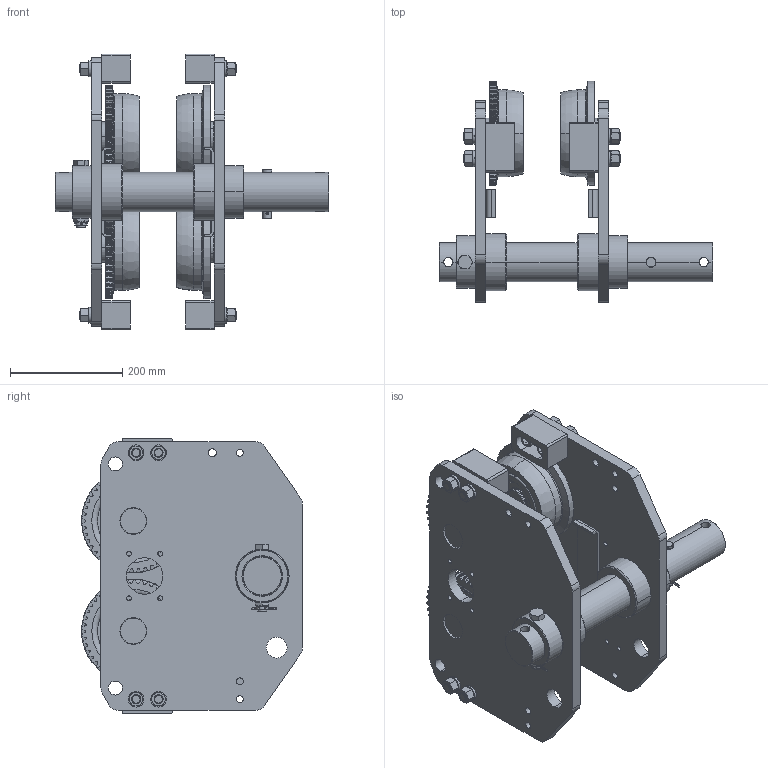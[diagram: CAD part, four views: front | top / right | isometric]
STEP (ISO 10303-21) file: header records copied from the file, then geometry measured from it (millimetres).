
FILE_DESCRIPTION (( 'STEP AP214' ), '1' );
FILE_NAME ('PTS080.STEP', '2026-08-17T14:35:37', ( '' ), ( '' ), 'SwSTEP 2.0', 'SolidWorks 2026', '' );
FILE_SCHEMA (( 'AUTOMOTIVE_DESIGN' ));
Length unit declared in the file: inch
Products named in the file (26): T5AB0759141; T3GA1009102; J1NL00910160_JIS B 1170 Hexagon castle nut Class 2 High type Medium M16 --N; T3GA1009111; T3GA1009112; 9047140_9047140; T3GA1009118; J1SR000-00090_J1SR000-00090; M6SE100S9113; PTS080; M6SE100S9114; 90912156_90912156; T3GA1005111; T3G1102075; MS104075; MS164075; T3GB1005112; 6308Z Bearing; T3GA1009103; T3G1101075; 9009436_9009436; 9012715_9012715; 9093439_9093439; MS115075_MS115075; T3GA1009101; MS161100
Assembly tree (64 placements, depth 3):
  PTS080
    T3GB1005112
      T3GA1009112
      T3GA1009118
      M6SE100S9114
      T3GA1009103  x2
    T3GA1005111
      T3GA1009111
      M6SE100S9113
      T3GA1009118
      T3GA1009103  x2
    T3G1102075  x2
      T3GA1009102
      6308Z Bearing
      J1SR000-00090_J1SR000-00090
    MS104075  x4
    9047140_9047140  x4
    T5AB0759141  x4
    90912156_90912156  x8
    9012715_9012715  x8
    9093439_9093439  x8
    MS115075_MS115075
    MS161100
    MS164075
    9009436_9009436  x2
    T3G1101075  x2
      T3GA1009101
      6308Z Bearing
      J1SR000-00090_J1SR000-00090
    J1NL00910160_JIS B 1170 Hexagon castle nut Class 2 High type Medium M16 --N
Bounding box: 488 x 394.6 x 492 mm (x, y, z)
Volume: 12533673.8 mm3; surface area: 1859342.2 mm2
Topology: 60 solids, 76 shells, 3832 faces, 10102 edges, 6582 vertices
Faces by surface type: plane 1632, cylinder 1368, bspline 398, cone 314, torus 120
Entity records: 54362 total; most frequent: CARTESIAN_POINT 19458, ORIENTED_EDGE 7522, DIRECTION 6529, EDGE_CURVE 3763, AXIS2_PLACEMENT_3D 2547, VERTEX_POINT 2452, EDGE_LOOP 1565, LINE 1435
